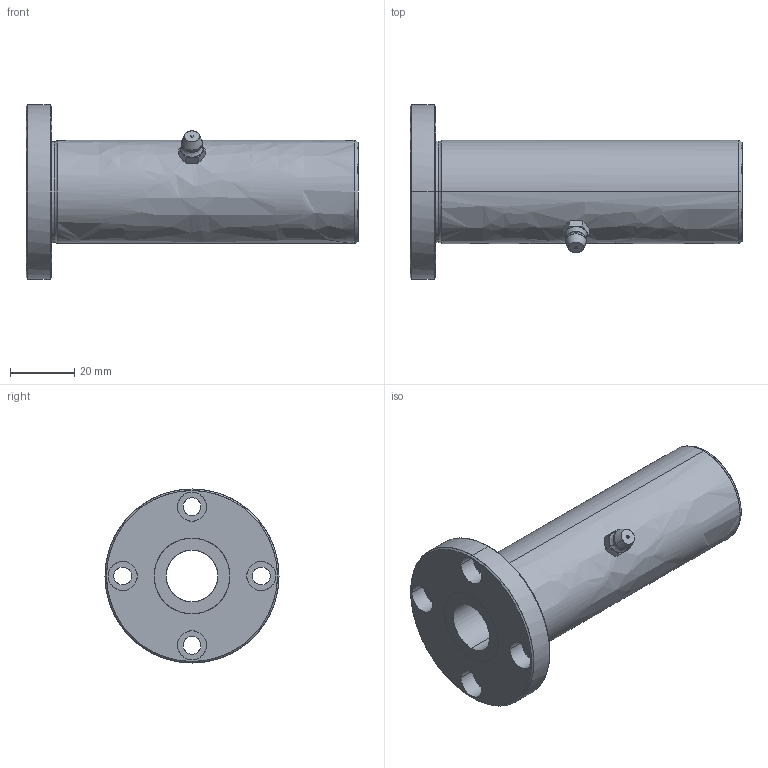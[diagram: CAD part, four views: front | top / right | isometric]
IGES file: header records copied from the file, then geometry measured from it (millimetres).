
Global section: file name: No Iges File Name specified; native system: AutoDesk Inventor R10; preprocessor: AutoDesk Inventor Iges Exporter R10; author: No Author specified; organization: No Organization specified; date: 20101211.161712; units: millimetre
Bounding box: 103 x 54 x 54 mm (x, y, z)
Surface area: 20946.2 mm2 (no closed solid volume)
Topology: 0 solids, 0 shells, 83 faces, 555 edges, 553 vertices
Faces by surface type: bspline 83
